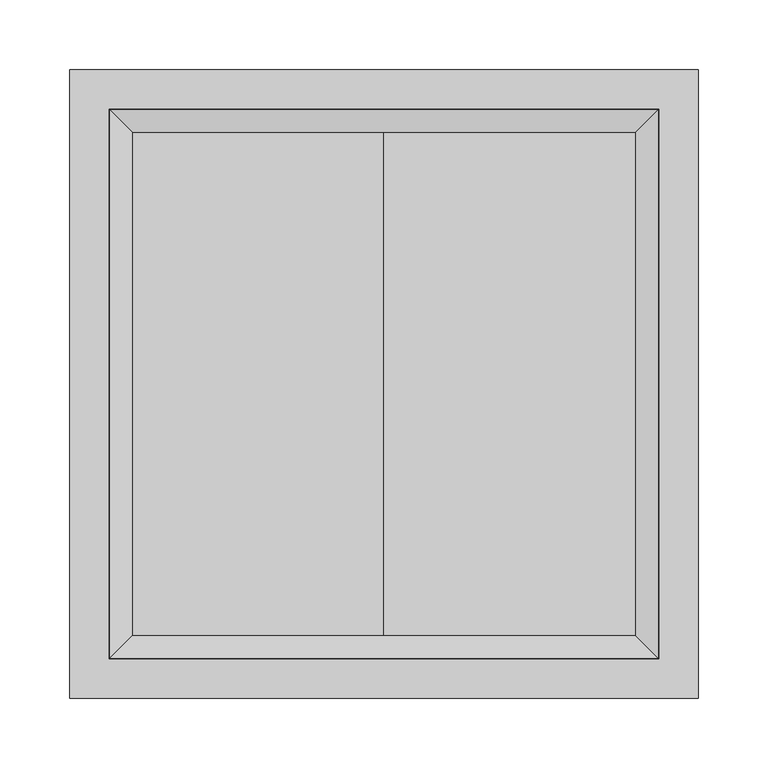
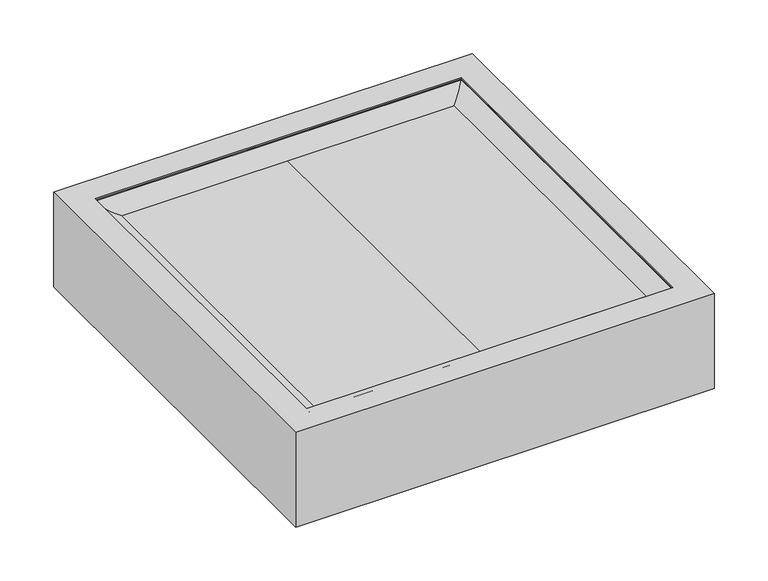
"""IFC4 building model written with IfcOpenShell, lengths in millimetres: light fixture geometry, Lighting_Ceiling-Mounted_LumenWerx_Primo-Surface : Lighting_Ceiling-Mounted_LumenWerx_Primo-Surface."""

from ifc_helpers import new_model, si_unit, frame, origin, place, context, project, spatial, polyline, ellipse_curve, outline, extrude, faceted_brep, source, transform, mapped, element, save
from ifc_brep_helpers import plane_surface, revolved_surface, advanced_brep


def light_fixture_60047a8c(model_context):
    return source(origin(), model_context, "Body", "SolidModel", [
        faceted_brep([(198.0069401, 198.1344284, 106.1040523), (-198.0010998, 198.1344284, 106.1040523), (-198.0010998, -198.1344284, 106.1040523), (198.0069401, -198.1344284, 106.1040523), (-196.552, 196.552, 106.1040523), (196.552, 196.552, 106.1040523), (196.552, -196.552, 106.1040523), (-196.552, -196.552, 106.1040523), (198.0069401, 198.1344284, 21.082), (198.0069401, -198.1344284, 21.082), (-198.0010998, -198.1344284, 21.082), (-198.0010998, 198.1344284, 21.082), (196.552, 196.552, 22.352), (-196.552, 196.552, 22.352), (-196.552, -196.552, 22.352), (196.552, -196.552, 22.352)], [[[0, 1, 2, 3], [4, 5, 6, 7]], [[8, 9, 10, 11]], [[1, 0, 8, 11]], [[2, 1, 11, 10]], [[3, 2, 10, 9]], [[0, 3, 9, 8]], [[12, 13, 14, 15]], [[13, 12, 5, 4]], [[14, 13, 4, 7]], [[15, 14, 7, 6]], [[12, 15, 6, 5]]]),
        extrude(outline(polyline([(88.8746, -196.552), (88.8746, 0.0), (88.8746, 196.552), (92.8116, 196.552), (92.8116, 0.0), (92.8116, -196.552), (88.8746, -196.552)])), frame((0.0, -196.552, 0.0), z_axis=(0.0, 1.0, 0.0), x_axis=(0.0, 0.0, 1.0)), (0.0, 0.0, 1.0), 393.104),
        advanced_brep(
        [(196.552, 196.552, 106.1040523), (175.8256, 175.8256, 92.7436523), (175.8256, -175.8256, 92.7436523), (196.552, -196.552, 106.1040523), (196.552, 196.552, 92.7436523), (196.552, -196.552, 92.7436523), (-175.8256, -175.8256, 92.7436523), (-196.552, -196.552, 106.1040523), (-196.552, -196.552, 92.7436523), (-175.8256, 175.8256, 92.7436523), (-196.552, 196.552, 106.1040523), (-196.552, 196.552, 92.7436523)],
        [
            (0, 1, ellipse_curve(frame((174.9507484, 174.9507484, 116.8577879), z_axis=(-0.7071067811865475, 0.7071067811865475, 0.0), x_axis=(-0.7071067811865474, -0.7071067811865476, 0.0)), 34.1249733, 24.13)),
            (1, 2),
            (2, 3, ellipse_curve(frame((174.9507484, -174.9507484, 116.8577879), z_axis=(-0.7071067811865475, -0.7071067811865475, 0.0), x_axis=(0.7071067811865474, -0.7071067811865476, 0.0)), 34.1249733, 24.13)),
            (3, 0),
            (4, 0),
            (3, 5),
            (5, 4),
            (2, 6),
            (6, 7, ellipse_curve(frame((-174.9507484, -174.9507484, 116.8577879), z_axis=(-0.7071067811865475, 0.7071067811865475, 0.0), x_axis=(-0.7071067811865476, -0.7071067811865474, 0.0)), 34.1249733, 24.13)),
            (7, 3),
            (7, 8),
            (8, 5),
            (6, 9),
            (9, 10, ellipse_curve(frame((-174.9507484, 174.9507484, 116.8577879), z_axis=(0.7071067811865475, 0.7071067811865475, 0.0), x_axis=(-0.7071067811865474, 0.7071067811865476, 0.0)), 34.1249733, 24.13)),
            (10, 7),
            (10, 11),
            (11, 8),
            (9, 1),
            (0, 10),
            (4, 11),
        ],
        [
            revolved_surface(polyline([(199.0807484, -199.08074842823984, 116.8577879), (199.0807484, 199.08074842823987, 116.8577879)]), (174.9507484, 196.552, 116.8577879), (0.0, -1.0, 0.0)),
            plane_surface(frame((196.552, 196.552, 106.1040523), z_axis=(1.0, 0.0, 0.0), x_axis=(0.0, -1.0, 0.0))),
            revolved_surface(polyline([(-199.08074842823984, -199.0807484, 116.8577879), (199.08074842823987, -199.0807484, 116.8577879)]), (196.552, -174.9507484, 116.8577879), (-1.0, 0.0, 0.0)),
            plane_surface(frame((196.552, -196.552, 106.1040523), z_axis=(0.0, -1.0, 0.0), x_axis=(-1.0, 0.0, 0.0))),
            revolved_surface(polyline([(-199.0807484, 199.08074842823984, 116.8577879), (-199.0807484, -199.08074842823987, 116.8577879)]), (-174.9507484, -196.552, 116.8577879), (0.0, 1.0, 0.0)),
            plane_surface(frame((-196.552, -196.552, 106.1040523), z_axis=(-1.0, 0.0, 0.0), x_axis=(0.0, 1.0, 0.0))),
            revolved_surface(polyline([(199.08074842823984, 199.0807484, 116.8577879), (-199.08074842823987, 199.0807484, 116.8577879)]), (-196.552, 174.9507484, 116.8577879), (1.0, 0.0, 0.0)),
            plane_surface(frame((-196.552, 196.552, 106.1040523), z_axis=(0.0, 1.0, 0.0), x_axis=(1.0, 0.0, 0.0))),
            plane_surface(frame((-196.552, 196.552, 92.7436523), z_axis=(0.0, 0.0, -1.0), x_axis=(1.0, 0.0, 0.0))),
        ],
        [
            (0, [[1, 2, 3, 4]]),
            (1, [[5, -4, 6, 7]]),
            (2, [[-3, 8, 9, 10]]),
            (3, [[-6, -10, 11, 12]]),
            (4, [[-9, 13, 14, 15]]),
            (5, [[-11, -15, 16, 17]]),
            (6, [[-14, 18, -1, 19]]),
            (7, [[-16, -19, -5, 20]]),
            (8, [[-12, -17, -20, -7], [-18, -13, -8, -2]]),
        ],
    ),
        faceted_brep([(225.0, 225.0, 0.0), (225.0, 225.0, 107.95), (225.0, -225.0, 107.95), (225.0, -225.0, 0.0), (223.222, 223.222, 106.1040523), (223.222, 223.222, 0.0), (223.222, -223.222, 0.0), (223.222, -223.222, 106.1040523), (196.6104284, 196.6104284, 107.95), (196.6104284, 196.6104284, 106.1040523), (196.6104284, -196.6104284, 106.1040523), (196.6104284, -196.6104284, 107.95), (-225.0, -225.0, 107.95), (-225.0, -225.0, 0.0), (-223.222, -223.222, 0.0), (-223.222, -223.222, 106.1040523), (-196.6104284, -196.6104284, 106.1040523), (-196.6104284, -196.6104284, 107.95), (-225.0, 225.0, 107.95), (-225.0, 225.0, 0.0), (-223.222, 223.222, 0.0), (-223.222, 223.222, 106.1040523), (-196.6104284, 196.6104284, 106.1040523), (-196.6104284, 196.6104284, 107.95)], [[[0, 1, 2, 3]], [[4, 5, 6, 7]], [[8, 9, 10, 11]], [[3, 2, 12, 13]], [[7, 6, 14, 15]], [[11, 10, 16, 17]], [[13, 12, 18, 19]], [[15, 14, 20, 21]], [[17, 16, 22, 23]], [[1, 18, 12, 2], [11, 17, 23, 8]], [[19, 18, 1, 0]], [[3, 13, 19, 0], [5, 20, 14, 6]], [[21, 20, 5, 4]], [[7, 15, 21, 4], [9, 22, 16, 10]], [[23, 22, 9, 8]]]),
    ])


if __name__ == "__main__":
    model = new_model("IFC4")
    model_context = context("Model", 3, world=origin())
    ifc_project = project(units=[si_unit("LENGTHUNIT", "METRE", prefix="MILLI")], contexts=[model_context])
    site = spatial("IfcSite", under=ifc_project)
    building = spatial("IfcBuilding", under=site)
    placement = place(None, origin())
    light_fixture_shape = light_fixture_60047a8c(model_context)
    element("IfcLightFixture", 1, ObjectType="Lighting_Ceiling-Mounted_LumenWerx_Primo-Surface : Lighting_Ceiling-Mounted_LumenWerx_Primo-Surface", at=placement, inside=building, context=model_context, shape_type="MappedRepresentation", body=[
        mapped(light_fixture_shape, transform((0.0, 0.0, 0.0), x_axis=(1.0, 0.0, 0.0), y_axis=(0.0, 1.0, 0.0), z_axis=(0.0, 0.0, 1.0))),
    ])
    save(model, "model.ifc")
